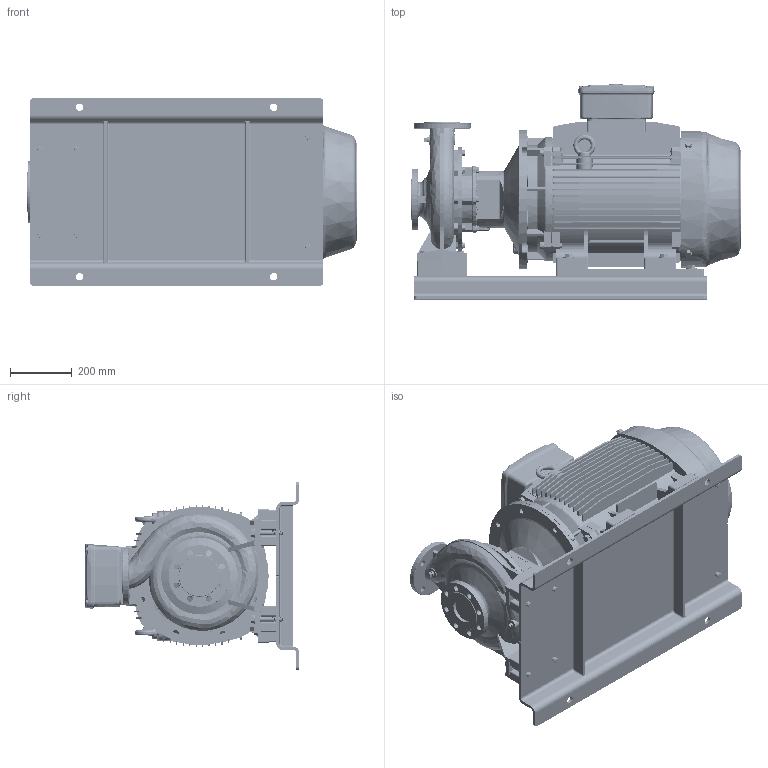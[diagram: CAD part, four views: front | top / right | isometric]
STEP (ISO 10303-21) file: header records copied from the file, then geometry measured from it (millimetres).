
FILE_DESCRIPTION (( 'STEP AP214' ), '1' );
FILE_NAME ('GSD2 65-250_45_(225SM)_W21_BP.STEP', '2024-05-17T05:27:40', ( '' ), ( '' ), 'SwSTEP 2.0', 'SolidWorks 2019', '' );
FILE_SCHEMA (( 'AUTOMOTIVE_DESIGN' ));
Length unit declared in the file: millimetre
Products named in the file (19): N7S3 GSDA-73B F1-1832954-00; Parametric bolt and washer_SFT-A359B; 225S_M2P IE3_W21T_B35; Parametric bolt_SFT-A377B; Parametric bolt and washer_SFT-A377B; CGS11-5321_2_3_4_5_CGS11-5322; Parametric bolt_SFT-A359B; 80x25 -CGSDA-5281 (225); GSD2  65-250_45_(225SM)_W21_BP; 65-250-225S_M_______; Parametric Flat Washer_M16
Assembly tree (39 placements, depth 3):
  GSD2  65-250_45_(225SM)_W21_BP
    65-250-225S_M_______
    CGS11-5321_2_3_4_5_CGS11-5322  x4
    225S_M2P IE3_W21T_B35
    N7S3 GSDA-73B F1-1832954-00
    80x25 -CGSDA-5281 (225)  x2
    Parametric bolt and washer_SFT-A359B
      Parametric bolt_SFT-A359B
      Parametric Flat Washer_M16
    Parametric bolt and washer_SFT-A359B
      Parametric bolt_SFT-A359B
      Parametric Flat Washer_M16
    Parametric bolt and washer_SFT-A359B
      Parametric bolt_SFT-A359B
      Parametric Flat Washer_M16
    Parametric bolt and washer_SFT-A359B
      Parametric bolt_SFT-A359B
      Parametric Flat Washer_M16
    Parametric bolt and washer_SFT-A359B
      Parametric bolt_SFT-A359B
      Parametric Flat Washer_M16
    Parametric bolt and washer_SFT-A359B
      Parametric bolt_SFT-A359B
      Parametric Flat Washer_M16
    Parametric bolt and washer_SFT-A377B
      Parametric bolt_SFT-A377B
      Parametric Flat Washer_M16
    Parametric bolt and washer_SFT-A377B
      Parametric bolt_SFT-A377B
      Parametric Flat Washer_M16
    Parametric bolt and washer_SFT-A377B
      Parametric bolt_SFT-A377B
      Parametric Flat Washer_M16
    Parametric bolt and washer_SFT-A377B
      Parametric bolt_SFT-A377B
      Parametric Flat Washer_M16
Bounding box: 1069.5 x 698 x 610 mm (x, y, z)
Volume: 130524675.2 mm3; surface area: 5974998 mm2
Topology: 30 solids, 35 shells, 4259 faces, 11264 edges, 7204 vertices
Faces by surface type: plane 1782, cylinder 1437, cone 482, torus 293, bspline 250, sphere 15
Entity records: 150526 total; most frequent: CARTESIAN_POINT 61376, ORIENTED_EDGE 19390, DIRECTION 17827, EDGE_CURVE 9695, AXIS2_PLACEMENT_3D 6536, VERTEX_POINT 6186, LINE 4755, VECTOR 4755
